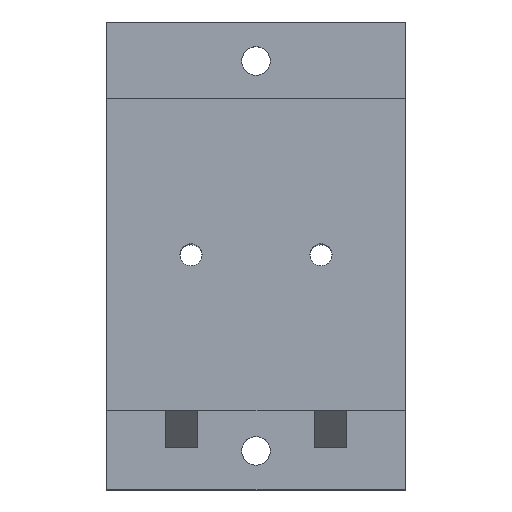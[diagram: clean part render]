
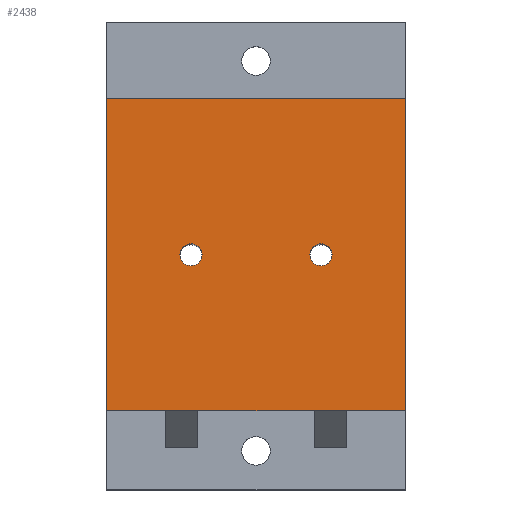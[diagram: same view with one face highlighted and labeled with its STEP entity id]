
A CAD part, top view. The second image highlights one B-rep face of the part: STEP entity #2438.
In plain terms, the highlighted planar face has unit normal (0, 0, 1).
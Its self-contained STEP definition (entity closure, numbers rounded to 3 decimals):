
#2085 = PLANE('',#2086);
#2086 = AXIS2_PLACEMENT_3D('',#2087,#2088,#2089);
#2087 = CARTESIAN_POINT('',(0.,12.,108.));
#2088 = DIRECTION('',(1.,0.,0.));
#2089 = DIRECTION('',(0.,0.,1.));
#2113 = PLANE('',#2114);
#2114 = AXIS2_PLACEMENT_3D('',#2115,#2116,#2117);
#2115 = CARTESIAN_POINT('',(0.,12.,108.));
#2116 = DIRECTION('',(0.,1.,0.));
#2117 = DIRECTION('',(0.,0.,1.));
#2141 = PLANE('',#2142);
#2142 = AXIS2_PLACEMENT_3D('',#2143,#2144,#2145);
#2143 = CARTESIAN_POINT('',(46.,12.,108.));
#2144 = DIRECTION('',(1.,0.,0.));
#2145 = DIRECTION('',(0.,0.,1.));
#2167 = PLANE('',#2168);
#2168 = AXIS2_PLACEMENT_3D('',#2169,#2170,#2171);
#2169 = CARTESIAN_POINT('',(0.,60.,108.));
#2170 = DIRECTION('',(0.,1.,0.));
#2171 = DIRECTION('',(0.,0.,1.));
#2198 = CYLINDRICAL_SURFACE('',#2199,1.7);
#2199 = AXIS2_PLACEMENT_3D('',#2200,#2201,#2202);
#2200 = CARTESIAN_POINT('',(13.,36.,-30.));
#2201 = DIRECTION('',(-0.,-0.,-1.));
#2202 = DIRECTION('',(1.,0.,0.));
#2368 = CYLINDRICAL_SURFACE('',#2369,1.7);
#2369 = AXIS2_PLACEMENT_3D('',#2370,#2371,#2372);
#2370 = CARTESIAN_POINT('',(33.,36.,-30.));
#2371 = DIRECTION('',(-0.,-0.,-1.));
#2372 = DIRECTION('',(1.,0.,0.));
#2384 = VERTEX_POINT('',#2385);
#2385 = CARTESIAN_POINT('',(34.7,36.,116.));
#2408 = EDGE_CURVE('',#2384,#2384,#2409,.T.);
#2409 = SURFACE_CURVE('',#2410,(#2415,#2422),.PCURVE_S1.);
#2410 = CIRCLE('',#2411,1.7);
#2411 = AXIS2_PLACEMENT_3D('',#2412,#2413,#2414);
#2412 = CARTESIAN_POINT('',(33.,36.,116.));
#2413 = DIRECTION('',(0.,0.,-1.));
#2414 = DIRECTION('',(1.,0.,0.));
#2415 = PCURVE('',#2368,#2416);
#2416 = DEFINITIONAL_REPRESENTATION('',(#2417),#2421);
#2417 = LINE('',#2418,#2419);
#2418 = CARTESIAN_POINT('',(-6.283,-146.));
#2419 = VECTOR('',#2420,1.);
#2420 = DIRECTION('',(1.,-0.));
#2421 = ( GEOMETRIC_REPRESENTATION_CONTEXT(2) 
PARAMETRIC_REPRESENTATION_CONTEXT() REPRESENTATION_CONTEXT('2D SPACE',''
  ) );
#2422 = PCURVE('',#2423,#2428);
#2423 = PLANE('',#2424);
#2424 = AXIS2_PLACEMENT_3D('',#2425,#2426,#2427);
#2425 = CARTESIAN_POINT('',(0.,12.,116.));
#2426 = DIRECTION('',(0.,0.,1.));
#2427 = DIRECTION('',(1.,0.,0.));
#2428 = DEFINITIONAL_REPRESENTATION('',(#2429),#2437);
#2429 = ( BOUNDED_CURVE() B_SPLINE_CURVE(2,(#2430,#2431,#2432,#2433,
#2434,#2435,#2436),.UNSPECIFIED.,.T.,.F.) B_SPLINE_CURVE_WITH_KNOTS((1,2
    ,2,2,2,1),(-2.094,0.,2.094,4.189,
6.283,8.378),.UNSPECIFIED.) CURVE() 
GEOMETRIC_REPRESENTATION_ITEM() RATIONAL_B_SPLINE_CURVE((1.,0.5,1.,0.5,
1.,0.5,1.)) REPRESENTATION_ITEM('') );
#2430 = CARTESIAN_POINT('',(34.7,24.));
#2431 = CARTESIAN_POINT('',(34.7,21.056));
#2432 = CARTESIAN_POINT('',(32.15,22.528));
#2433 = CARTESIAN_POINT('',(29.6,24.));
#2434 = CARTESIAN_POINT('',(32.15,25.472));
#2435 = CARTESIAN_POINT('',(34.7,26.944));
#2436 = CARTESIAN_POINT('',(34.7,24.));
#2437 = ( GEOMETRIC_REPRESENTATION_CONTEXT(2) 
PARAMETRIC_REPRESENTATION_CONTEXT() REPRESENTATION_CONTEXT('2D SPACE',''
  ) );
#2438 = ADVANCED_FACE('',(#2439,#2533,#2563),#2423,.T.);
#2439 = FACE_BOUND('',#2440,.T.);
#2440 = EDGE_LOOP('',(#2441,#2466,#2489,#2512));
#2441 = ORIENTED_EDGE('',*,*,#2442,.F.);
#2442 = EDGE_CURVE('',#2443,#2445,#2447,.T.);
#2443 = VERTEX_POINT('',#2444);
#2444 = CARTESIAN_POINT('',(0.,12.,116.));
#2445 = VERTEX_POINT('',#2446);
#2446 = CARTESIAN_POINT('',(0.,60.,116.));
#2447 = SURFACE_CURVE('',#2448,(#2452,#2459),.PCURVE_S1.);
#2448 = LINE('',#2449,#2450);
#2449 = CARTESIAN_POINT('',(0.,12.,116.));
#2450 = VECTOR('',#2451,1.);
#2451 = DIRECTION('',(0.,1.,0.));
#2452 = PCURVE('',#2423,#2453);
#2453 = DEFINITIONAL_REPRESENTATION('',(#2454),#2458);
#2454 = LINE('',#2455,#2456);
#2455 = CARTESIAN_POINT('',(0.,0.));
#2456 = VECTOR('',#2457,1.);
#2457 = DIRECTION('',(0.,1.));
#2458 = ( GEOMETRIC_REPRESENTATION_CONTEXT(2) 
PARAMETRIC_REPRESENTATION_CONTEXT() REPRESENTATION_CONTEXT('2D SPACE',''
  ) );
#2459 = PCURVE('',#2085,#2460);
#2460 = DEFINITIONAL_REPRESENTATION('',(#2461),#2465);
#2461 = LINE('',#2462,#2463);
#2462 = CARTESIAN_POINT('',(8.,0.));
#2463 = VECTOR('',#2464,1.);
#2464 = DIRECTION('',(0.,-1.));
#2465 = ( GEOMETRIC_REPRESENTATION_CONTEXT(2) 
PARAMETRIC_REPRESENTATION_CONTEXT() REPRESENTATION_CONTEXT('2D SPACE',''
  ) );
#2466 = ORIENTED_EDGE('',*,*,#2467,.T.);
#2467 = EDGE_CURVE('',#2443,#2468,#2470,.T.);
#2468 = VERTEX_POINT('',#2469);
#2469 = CARTESIAN_POINT('',(46.,12.,116.));
#2470 = SURFACE_CURVE('',#2471,(#2475,#2482),.PCURVE_S1.);
#2471 = LINE('',#2472,#2473);
#2472 = CARTESIAN_POINT('',(0.,12.,116.));
#2473 = VECTOR('',#2474,1.);
#2474 = DIRECTION('',(1.,0.,0.));
#2475 = PCURVE('',#2423,#2476);
#2476 = DEFINITIONAL_REPRESENTATION('',(#2477),#2481);
#2477 = LINE('',#2478,#2479);
#2478 = CARTESIAN_POINT('',(0.,0.));
#2479 = VECTOR('',#2480,1.);
#2480 = DIRECTION('',(1.,0.));
#2481 = ( GEOMETRIC_REPRESENTATION_CONTEXT(2) 
PARAMETRIC_REPRESENTATION_CONTEXT() REPRESENTATION_CONTEXT('2D SPACE',''
  ) );
#2482 = PCURVE('',#2113,#2483);
#2483 = DEFINITIONAL_REPRESENTATION('',(#2484),#2488);
#2484 = LINE('',#2485,#2486);
#2485 = CARTESIAN_POINT('',(8.,0.));
#2486 = VECTOR('',#2487,1.);
#2487 = DIRECTION('',(0.,1.));
#2488 = ( GEOMETRIC_REPRESENTATION_CONTEXT(2) 
PARAMETRIC_REPRESENTATION_CONTEXT() REPRESENTATION_CONTEXT('2D SPACE',''
  ) );
#2489 = ORIENTED_EDGE('',*,*,#2490,.T.);
#2490 = EDGE_CURVE('',#2468,#2491,#2493,.T.);
#2491 = VERTEX_POINT('',#2492);
#2492 = CARTESIAN_POINT('',(46.,60.,116.));
#2493 = SURFACE_CURVE('',#2494,(#2498,#2505),.PCURVE_S1.);
#2494 = LINE('',#2495,#2496);
#2495 = CARTESIAN_POINT('',(46.,12.,116.));
#2496 = VECTOR('',#2497,1.);
#2497 = DIRECTION('',(0.,1.,0.));
#2498 = PCURVE('',#2423,#2499);
#2499 = DEFINITIONAL_REPRESENTATION('',(#2500),#2504);
#2500 = LINE('',#2501,#2502);
#2501 = CARTESIAN_POINT('',(46.,0.));
#2502 = VECTOR('',#2503,1.);
#2503 = DIRECTION('',(0.,1.));
#2504 = ( GEOMETRIC_REPRESENTATION_CONTEXT(2) 
PARAMETRIC_REPRESENTATION_CONTEXT() REPRESENTATION_CONTEXT('2D SPACE',''
  ) );
#2505 = PCURVE('',#2141,#2506);
#2506 = DEFINITIONAL_REPRESENTATION('',(#2507),#2511);
#2507 = LINE('',#2508,#2509);
#2508 = CARTESIAN_POINT('',(8.,0.));
#2509 = VECTOR('',#2510,1.);
#2510 = DIRECTION('',(0.,-1.));
#2511 = ( GEOMETRIC_REPRESENTATION_CONTEXT(2) 
PARAMETRIC_REPRESENTATION_CONTEXT() REPRESENTATION_CONTEXT('2D SPACE',''
  ) );
#2512 = ORIENTED_EDGE('',*,*,#2513,.F.);
#2513 = EDGE_CURVE('',#2445,#2491,#2514,.T.);
#2514 = SURFACE_CURVE('',#2515,(#2519,#2526),.PCURVE_S1.);
#2515 = LINE('',#2516,#2517);
#2516 = CARTESIAN_POINT('',(0.,60.,116.));
#2517 = VECTOR('',#2518,1.);
#2518 = DIRECTION('',(1.,0.,0.));
#2519 = PCURVE('',#2423,#2520);
#2520 = DEFINITIONAL_REPRESENTATION('',(#2521),#2525);
#2521 = LINE('',#2522,#2523);
#2522 = CARTESIAN_POINT('',(0.,48.));
#2523 = VECTOR('',#2524,1.);
#2524 = DIRECTION('',(1.,0.));
#2525 = ( GEOMETRIC_REPRESENTATION_CONTEXT(2) 
PARAMETRIC_REPRESENTATION_CONTEXT() REPRESENTATION_CONTEXT('2D SPACE',''
  ) );
#2526 = PCURVE('',#2167,#2527);
#2527 = DEFINITIONAL_REPRESENTATION('',(#2528),#2532);
#2528 = LINE('',#2529,#2530);
#2529 = CARTESIAN_POINT('',(8.,0.));
#2530 = VECTOR('',#2531,1.);
#2531 = DIRECTION('',(0.,1.));
#2532 = ( GEOMETRIC_REPRESENTATION_CONTEXT(2) 
PARAMETRIC_REPRESENTATION_CONTEXT() REPRESENTATION_CONTEXT('2D SPACE',''
  ) );
#2533 = FACE_BOUND('',#2534,.T.);
#2534 = EDGE_LOOP('',(#2535));
#2535 = ORIENTED_EDGE('',*,*,#2536,.T.);
#2536 = EDGE_CURVE('',#2537,#2537,#2539,.T.);
#2537 = VERTEX_POINT('',#2538);
#2538 = CARTESIAN_POINT('',(14.7,36.,116.));
#2539 = SURFACE_CURVE('',#2540,(#2545,#2556),.PCURVE_S1.);
#2540 = CIRCLE('',#2541,1.7);
#2541 = AXIS2_PLACEMENT_3D('',#2542,#2543,#2544);
#2542 = CARTESIAN_POINT('',(13.,36.,116.));
#2543 = DIRECTION('',(0.,0.,-1.));
#2544 = DIRECTION('',(1.,0.,0.));
#2545 = PCURVE('',#2423,#2546);
#2546 = DEFINITIONAL_REPRESENTATION('',(#2547),#2555);
#2547 = ( BOUNDED_CURVE() B_SPLINE_CURVE(2,(#2548,#2549,#2550,#2551,
#2552,#2553,#2554),.UNSPECIFIED.,.T.,.F.) B_SPLINE_CURVE_WITH_KNOTS((1,2
    ,2,2,2,1),(-2.094,0.,2.094,4.189,
6.283,8.378),.UNSPECIFIED.) CURVE() 
GEOMETRIC_REPRESENTATION_ITEM() RATIONAL_B_SPLINE_CURVE((1.,0.5,1.,0.5,
1.,0.5,1.)) REPRESENTATION_ITEM('') );
#2548 = CARTESIAN_POINT('',(14.7,24.));
#2549 = CARTESIAN_POINT('',(14.7,21.056));
#2550 = CARTESIAN_POINT('',(12.15,22.528));
#2551 = CARTESIAN_POINT('',(9.6,24.));
#2552 = CARTESIAN_POINT('',(12.15,25.472));
#2553 = CARTESIAN_POINT('',(14.7,26.944));
#2554 = CARTESIAN_POINT('',(14.7,24.));
#2555 = ( GEOMETRIC_REPRESENTATION_CONTEXT(2) 
PARAMETRIC_REPRESENTATION_CONTEXT() REPRESENTATION_CONTEXT('2D SPACE',''
  ) );
#2556 = PCURVE('',#2198,#2557);
#2557 = DEFINITIONAL_REPRESENTATION('',(#2558),#2562);
#2558 = LINE('',#2559,#2560);
#2559 = CARTESIAN_POINT('',(-6.283,-146.));
#2560 = VECTOR('',#2561,1.);
#2561 = DIRECTION('',(1.,-0.));
#2562 = ( GEOMETRIC_REPRESENTATION_CONTEXT(2) 
PARAMETRIC_REPRESENTATION_CONTEXT() REPRESENTATION_CONTEXT('2D SPACE',''
  ) );
#2563 = FACE_BOUND('',#2564,.T.);
#2564 = EDGE_LOOP('',(#2565));
#2565 = ORIENTED_EDGE('',*,*,#2408,.T.);
